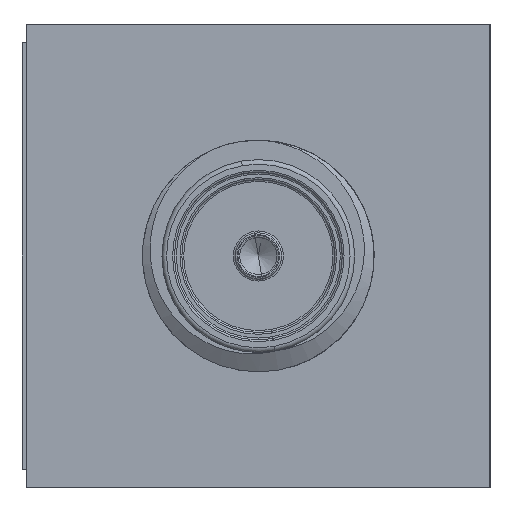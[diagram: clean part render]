
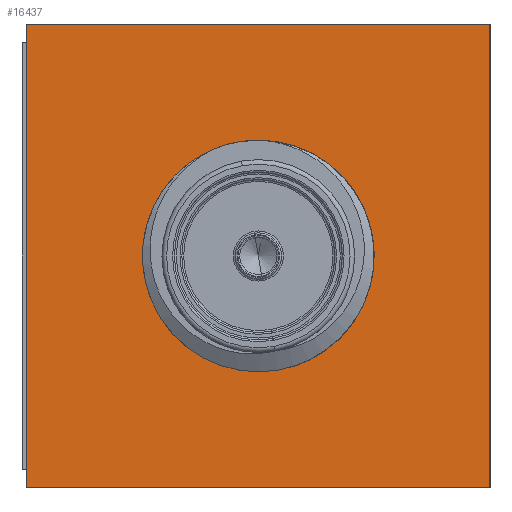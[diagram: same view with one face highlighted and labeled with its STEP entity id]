
A CAD part, left-side view. The second image highlights one B-rep face of the part: STEP entity #16437.
In plain terms, the highlighted planar face has unit normal (-1, 0, 0).
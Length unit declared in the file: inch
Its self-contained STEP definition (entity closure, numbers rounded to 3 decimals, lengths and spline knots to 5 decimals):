
#239 = VERTEX_POINT ( 'NONE', #36026 ) ;
#1967 = VERTEX_POINT ( 'NONE', #85690 ) ;
#3887 = LINE ( 'NONE', #85493, #73243 ) ;
#8275 = ORIENTED_EDGE ( 'NONE', *, *, #54866, .T. ) ;
#8398 = EDGE_CURVE ( 'NONE', #32780, #239, #18198, .T. ) ;
#8877 = PLANE ( 'NONE',  #40765 ) ;
#12025 = CARTESIAN_POINT ( 'NONE',  ( -0.52394, 0.48874, 0.53524 ) ) ;
#12948 = CARTESIAN_POINT ( 'NONE',  ( -0.52394, 0.73874, 0.28524 ) ) ;
#13839 = AXIS2_PLACEMENT_3D ( 'NONE', #12025, #37101, #26257 ) ;
#15168 = EDGE_CURVE ( 'NONE', #55358, #1967, #29037, .T. ) ;
#16437 = ADVANCED_FACE ( 'NONE', ( #68606, #41022 ), #8877, .F. ) ;
#18198 = CIRCLE ( 'NONE', #75197, 0.025 ) ;
#18720 = DIRECTION ( 'NONE',  ( 0., -1., 0. ) ) ;
#19771 = ORIENTED_EDGE ( 'NONE', *, *, #51719, .F. ) ;
#22889 = ORIENTED_EDGE ( 'NONE', *, *, #65245, .F. ) ;
#23060 = CARTESIAN_POINT ( 'NONE',  ( -0.52394, 0.73874, 0.28524 ) ) ;
#23355 = EDGE_LOOP ( 'NONE', ( #45315, #22889, #29077, #8275 ) ) ;
#26257 = DIRECTION ( 'NONE',  ( 0., 0., 1. ) ) ;
#26675 = DIRECTION ( 'NONE',  ( 0., -1., 0. ) ) ;
#27064 = VECTOR ( 'NONE', #26675, 39.37008 ) ;
#27625 = DIRECTION ( 'NONE',  ( 1., 0., 0. ) ) ;
#28426 = CARTESIAN_POINT ( 'NONE',  ( -0.52394, 0.73874, 0.78524 ) ) ;
#29037 = LINE ( 'NONE', #84344, #70308 ) ;
#29077 = ORIENTED_EDGE ( 'NONE', *, *, #15168, .F. ) ;
#29716 = VERTEX_POINT ( 'NONE', #63314 ) ;
#32780 = VERTEX_POINT ( 'NONE', #44552 ) ;
#34920 = DIRECTION ( 'NONE',  ( 0., 0., 1. ) ) ;
#36026 = CARTESIAN_POINT ( 'NONE',  ( -0.52394, 0.48874, 0.56024 ) ) ;
#36052 = CARTESIAN_POINT ( 'NONE',  ( -0.52394, 0.73874, 0.78524 ) ) ;
#37101 = DIRECTION ( 'NONE',  ( -1., 0., 0. ) ) ;
#39474 = CARTESIAN_POINT ( 'NONE',  ( -0.52394, 0.48874, 0.53524 ) ) ;
#40765 = AXIS2_PLACEMENT_3D ( 'NONE', #36052, #27625, #69040 ) ;
#41022 = FACE_BOUND ( 'NONE', #69129, .T. ) ;
#42122 = DIRECTION ( 'NONE',  ( -1., 0., 0. ) ) ;
#44204 = CARTESIAN_POINT ( 'NONE',  ( -0.52394, 0.23874, 0.28524 ) ) ;
#44552 = CARTESIAN_POINT ( 'NONE',  ( -0.52394, 0.48874, 0.51024 ) ) ;
#45315 = ORIENTED_EDGE ( 'NONE', *, *, #75560, .T. ) ;
#47205 = VERTEX_POINT ( 'NONE', #44204 ) ;
#51719 = EDGE_CURVE ( 'NONE', #239, #32780, #82272, .T. ) ;
#53922 = ORIENTED_EDGE ( 'NONE', *, *, #8398, .F. ) ;
#54866 = EDGE_CURVE ( 'NONE', #55358, #47205, #79911, .T. ) ;
#55358 = VERTEX_POINT ( 'NONE', #23060 ) ;
#58002 = LINE ( 'NONE', #28426, #27064 ) ;
#63314 = CARTESIAN_POINT ( 'NONE',  ( -0.52394, 0.23874, 0.78524 ) ) ;
#65245 = EDGE_CURVE ( 'NONE', #1967, #29716, #58002, .T. ) ;
#68307 = VECTOR ( 'NONE', #18720, 39.37008 ) ;
#68606 = FACE_OUTER_BOUND ( 'NONE', #23355, .T. ) ;
#69040 = DIRECTION ( 'NONE',  ( 0., 0., -1. ) ) ;
#69129 = EDGE_LOOP ( 'NONE', ( #19771, #53922 ) ) ;
#70015 = DIRECTION ( 'NONE',  ( 0., 0., 1. ) ) ;
#70308 = VECTOR ( 'NONE', #70015, 39.37008 ) ;
#73243 = VECTOR ( 'NONE', #78374, 39.37008 ) ;
#75197 = AXIS2_PLACEMENT_3D ( 'NONE', #39474, #42122, #34920 ) ;
#75560 = EDGE_CURVE ( 'NONE', #47205, #29716, #3887, .T. ) ;
#78374 = DIRECTION ( 'NONE',  ( 0., 0., 1. ) ) ;
#79911 = LINE ( 'NONE', #12948, #68307 ) ;
#82272 = CIRCLE ( 'NONE', #13839, 0.025 ) ;
#84344 = CARTESIAN_POINT ( 'NONE',  ( -0.52394, 0.73874, 0.78524 ) ) ;
#85493 = CARTESIAN_POINT ( 'NONE',  ( -0.52394, 0.23874, 0.78524 ) ) ;
#85690 = CARTESIAN_POINT ( 'NONE',  ( -0.52394, 0.73874, 0.78524 ) ) ;
